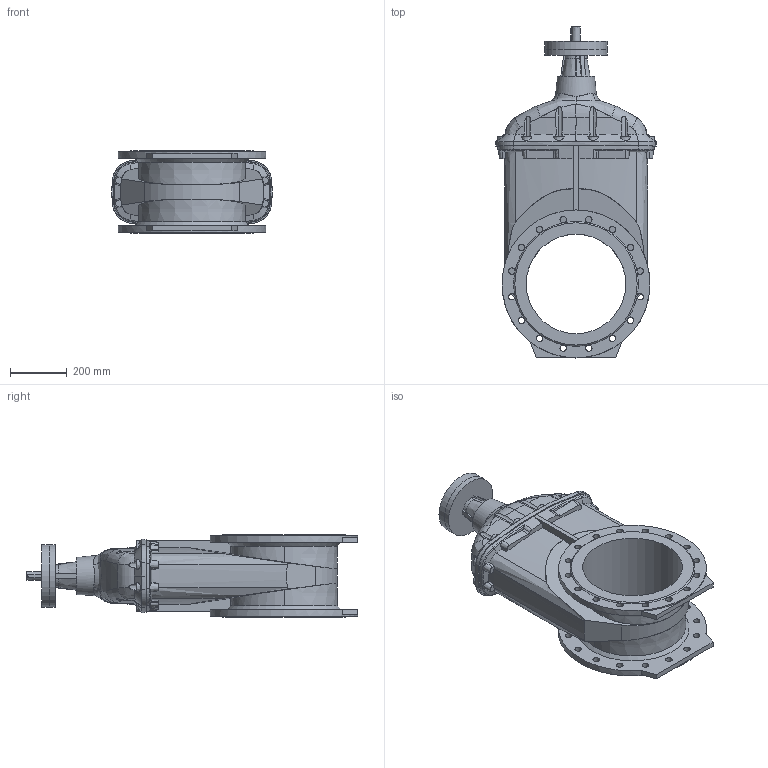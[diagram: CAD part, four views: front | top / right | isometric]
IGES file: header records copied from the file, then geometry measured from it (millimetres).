
Start section: SolidWorks IGES file using analytic representation for surfaces
Global section: file name: \\avksan2\techshare\PBM outline export from Enovia\O_15_40_DN350_X0X_AA0.igs; native system: SolidWorks 2012; preprocessor: SolidWorks 2012; author: pbm; date: 170310.090201; units: millimetre
Bounding box: 564 x 1167 x 290 mm (x, y, z)
Surface area: 2060252.2 mm2 (no closed solid volume)
Topology: 0 solids, 0 shells, 385 faces, 2360 edges, 2306 vertices
Faces by surface type: revolution 221, bspline 164
